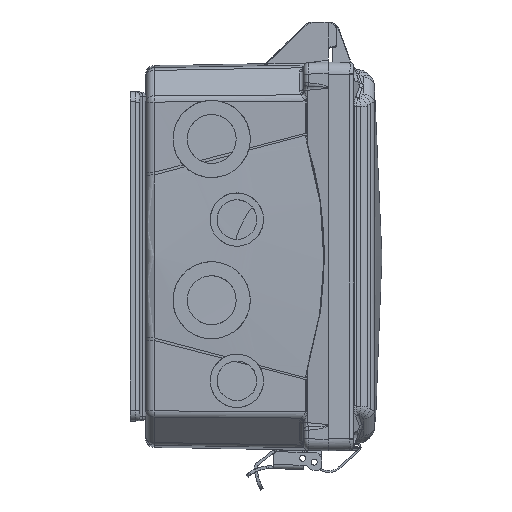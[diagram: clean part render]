
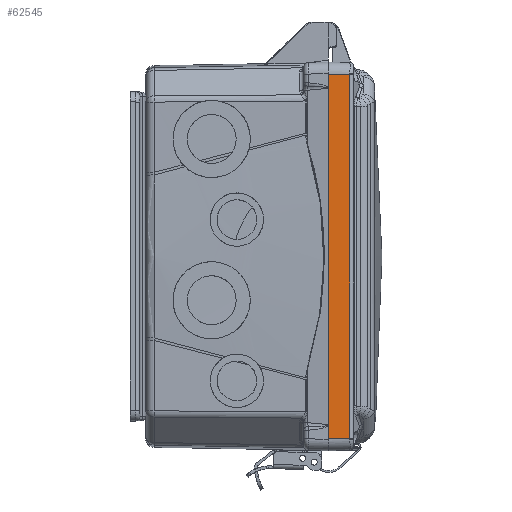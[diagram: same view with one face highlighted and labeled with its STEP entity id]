
A CAD part, front view. The second image highlights one B-rep face of the part: STEP entity #62545.
In plain terms, the highlighted planar face has unit normal (0.026, -1, 0) as drawn and (1, 0.026, 0) by its records, which use the part's own axes.
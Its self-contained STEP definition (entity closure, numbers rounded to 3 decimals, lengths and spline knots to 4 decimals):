
#51428=DIRECTION('',(0.026,-0.999,-0.026));
#51429=VECTOR('',#51428,0.4709);
#51430=CARTESIAN_POINT('',(4.2077,0.4706,
-3.9478));
#51431=LINE('',#51430,#51429);
#51432=DIRECTION('',(0.,0.,1.));
#51433=VECTOR('',#51432,7.9202);
#51434=CARTESIAN_POINT('',(4.22,0.,
-3.9601));
#51435=LINE('',#51434,#51433);
#51436=DIRECTION('',(-0.026,0.999,-0.026));
#51437=VECTOR('',#51436,0.4709);
#51438=CARTESIAN_POINT('',(4.22,0.,
3.9601));
#51439=LINE('',#51438,#51437);
#51440=DIRECTION('',(0.,0.,1.));
#51441=VECTOR('',#51440,7.8955);
#51442=CARTESIAN_POINT('',(4.2077,0.4706,
-3.9478));
#51443=LINE('',#51442,#51441);
#60850=CARTESIAN_POINT('',(4.2077,0.4706,
-3.9478));
#60851=CARTESIAN_POINT('',(4.2077,0.4706,
3.9478));
#60852=VERTEX_POINT('',#60850);
#60853=VERTEX_POINT('',#60851);
#60854=CARTESIAN_POINT('',(4.22,0.,
-3.9601));
#60855=VERTEX_POINT('',#60854);
#60856=CARTESIAN_POINT('',(4.22,0.,
3.9601));
#60857=VERTEX_POINT('',#60856);
#62530=CARTESIAN_POINT('',(4.22,0.,5.3776));
#62531=DIRECTION('',(1.,0.026,0.));
#62532=DIRECTION('',(0.,0.,1.));
#62533=AXIS2_PLACEMENT_3D('',#62530,#62531,#62532);
#62534=PLANE('',#62533);
#62536=ORIENTED_EDGE('',*,*,#62535,.F.);
#62538=ORIENTED_EDGE('',*,*,#62537,.T.);
#62540=ORIENTED_EDGE('',*,*,#62539,.T.);
#62542=ORIENTED_EDGE('',*,*,#62541,.T.);
#62543=EDGE_LOOP('',(#62536,#62538,#62540,#62542));
#62544=FACE_OUTER_BOUND('',#62543,.F.);
#62545=ADVANCED_FACE('',(#62544),#62534,.T.);
#62535=EDGE_CURVE('',#60852,#60853,#51443,.T.);
#62537=EDGE_CURVE('',#60852,#60855,#51431,.T.);
#62539=EDGE_CURVE('',#60855,#60857,#51435,.T.);
#62541=EDGE_CURVE('',#60857,#60853,#51439,.T.);
